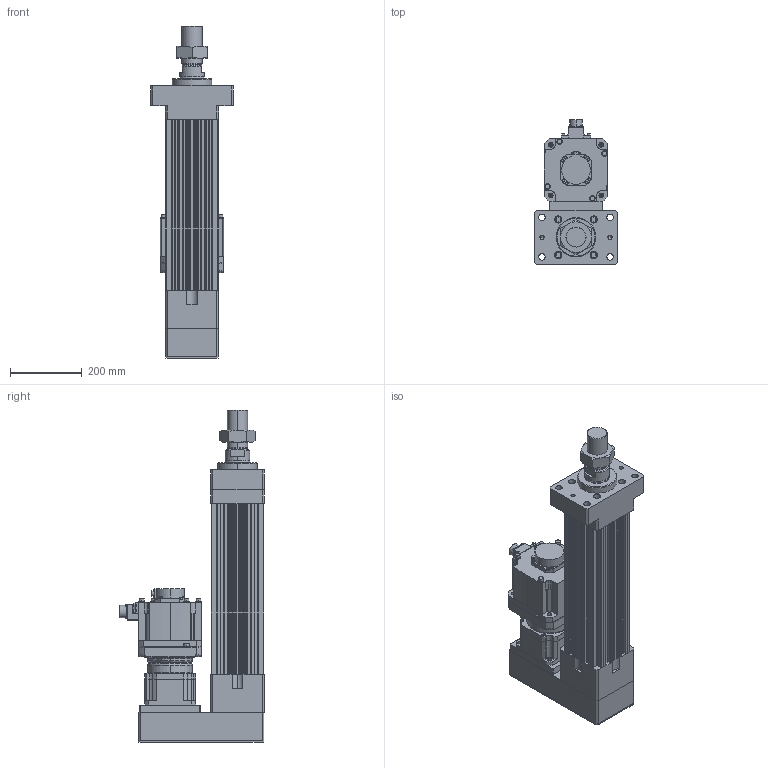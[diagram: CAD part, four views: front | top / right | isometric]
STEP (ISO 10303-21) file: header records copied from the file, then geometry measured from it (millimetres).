
FILE_DESCRIPTION (( 'STEP AP203' ), '1' );
FILE_NAME ('HES150NS(HS)-P200-W035G00-M-FMA.STEP', '2023-01-31T10:13:29', ( 'tms' ), ( '' ), 'SwSTEP 2.0', 'SolidWorks 2013', '' );
FILE_SCHEMA (( 'CONFIG_CONTROL_DESIGN' ));
Length unit declared in the file: millimetre
Products named in the file (9): AB142-003[HG-SR352]; HES150-P200-G142-FMA; P1301500001; HES150 ROD M ST200; HG-SR352; M56X2.0P; P0403500801; AB1421; HES150NS(HS)-P200-W035G00-M-FMA
Assembly tree (8 placements, depth 3):
  HES150NS(HS)-P200-W035G00-M-FMA
    HES150-P200-G142-FMA
    HES150 ROD M ST200
    M56X2.0P
    AB142-003[HG-SR352]
      AB1421
      P1301500001
      P0403500801
    HG-SR352
Bounding box: 230 x 403.85 x 926 mm (x, y, z)
Volume: 17449485.4 mm3; surface area: 1626861.7 mm2
Topology: 4 solids, 18 shells, 1426 faces, 3722 edges, 2416 vertices
Faces by surface type: cylinder 669, plane 531, cone 144, bspline 76, torus 6
Entity records: 52806 total; most frequent: CARTESIAN_POINT 16363, DIRECTION 7620, ORIENTED_EDGE 7346, EDGE_CURVE 3695, AXIS2_PLACEMENT_3D 2898, VERTEX_POINT 2416, VECTOR 1824, LINE 1824
